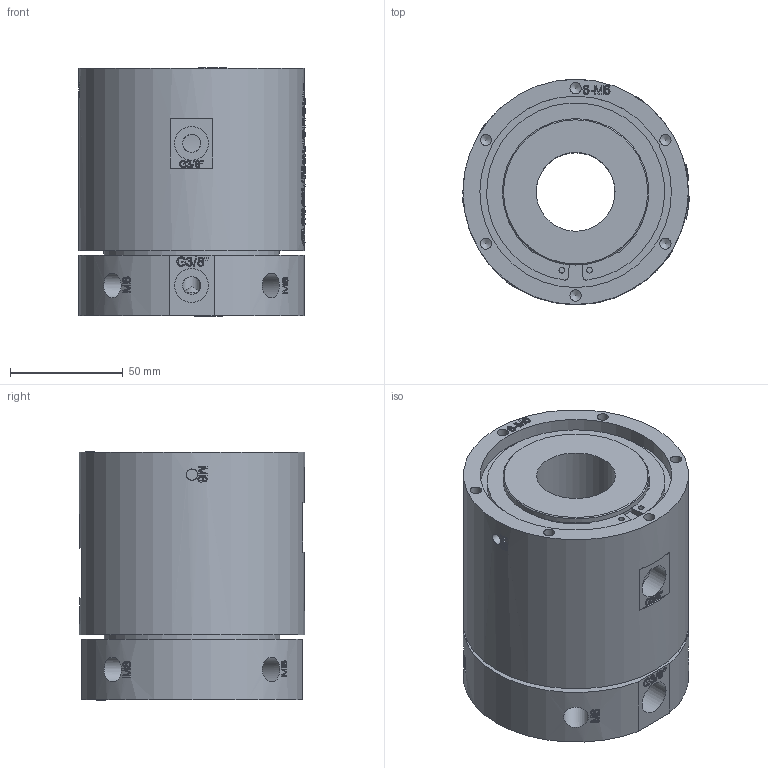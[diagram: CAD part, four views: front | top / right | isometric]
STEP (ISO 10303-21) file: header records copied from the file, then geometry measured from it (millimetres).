
FILE_DESCRIPTION(/* description */ (''),/* implementation_level */ '2;1');
FILE_NAME(/* name */ 'YQ0203D35.stp',/* time_stamp */ '2025-09-04T18:44:03+08:00',/* author */ (''),/* organization */ (''),/* preprocessor_version */ 'ST-DEVELOPER v16.7',/* originating_system */ 'SIEMENS PLM Software NX 12.0',/* authorisation */ '');
FILE_SCHEMA (('AUTOMOTIVE_DESIGN { 1 0 10303 214 3 1 1 1 }'));
Products named in the file (1): Admi8ABC6E17226u
Bounding box: 100.59 x 100 x 110.4 mm (x, y, z)
Volume: 717090.2 mm3; surface area: 81070.4 mm2
Topology: 1 solids, 1 shells, 1359 faces, 3689 edges, 2461 vertices
Faces by surface type: extrusion 708, plane 476, cylinder 85, bspline 75, cone 15
Full cylindrical faces by diameter (mm): 2.5 x2, 5 x12, 7 x4, 8 x6, 8.4 x2, 8.5 x2, 11 x4, 15 x4, 35 x1, 62.5 x1, 65 x1, 78 x1, 85 x1, 100 x1
Entity records: 68600 total; most frequent: CARTESIAN_POINT 40114, ORIENTED_EDGE 7156, EDGE_CURVE 3578, B_SPLINE_CURVE_WITH_KNOTS 3449, DIRECTION 2995, VERTEX_POINT 2432, EDGE_LOOP 1568, ADVANCED_FACE 1357
